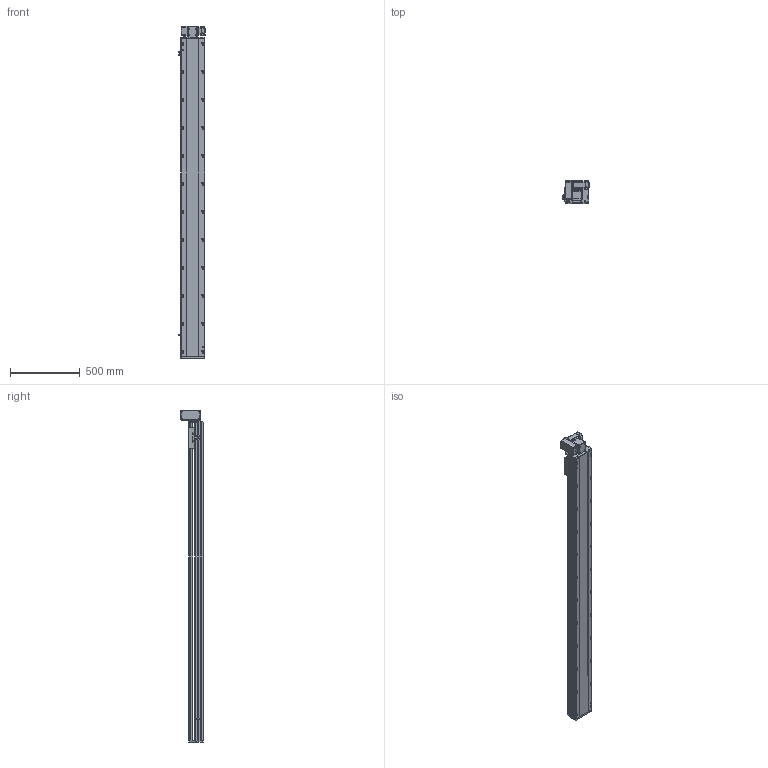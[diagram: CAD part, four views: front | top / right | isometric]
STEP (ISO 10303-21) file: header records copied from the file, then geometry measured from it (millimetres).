
FILE_DESCRIPTION (( 'STEP AP214' ), '1' );
FILE_NAME ('RTB17S-XX-2000-LW-M40-C4.STEP', '2025-12-11T07:13:16', ( '' ), ( '' ), 'SwSTEP 2.0', 'SolidWorks 2018', '' );
FILE_SCHEMA (( 'AUTOMOTIVE_DESIGN' ));
Length unit declared in the file: millimetre
Products named in the file (14): RTB14-L-018P^RTB17S-LW-々湍釱蚾饜-400W_RTB17S-XX-XX-LW-M40-C4; 400W侜督萇儂^RTB17S-XX-XX-LW-M40-C4; RTB17S-L-004佪裝蹟譫蟀諉釱^RTB17S-XX-XX-LW-M40-C4; RTB17S-L-007奻裔^RTB17S-XX-XX-LW-M40-C4; RTB17S-XX-2000-LW-M40-C4; RTB14-L-008-M20--萇儂啣^RTB17S-LW-々湍釱蚾饜-400W_RTB17S-XX-XX-LW-M40-C4; OMRON EE-SX672 传感器^RTB17S-XX-XX-LW-M40-C4; RTB17S-L-001耜醱啣^RTB17S-XX-XX-LW-M40-C4; RTH13-BL-012覜茼え俋离^RTB17S-XX-XX-LW-M40-C4; RTB17S-LW-々湍釱蚾饜-400W^RTB17S-XX-XX-LW-M40-C4; RTB17S-L-014-T20--々湍釱^RTB17S-LW-々湍釱蚾饜-400W_RTB17S-XX-XX-LW-M40-C4; RTB17-R-011菁釱^RTB17S-XX-XX-LW-M40-C4; RTB14-L-017P^RTB17S-LW-々湍釱蚾饜-400W_RTB17S-XX-XX-LW-M40-C4; RTB14-L-005P--轴承塑胶压盖^RTB17S-LW-皮带座装配-400W_RTB17S-XX-XX-LW-M40-C4
Assembly tree (16 placements, depth 3):
  RTB17S-XX-2000-LW-M40-C4
    RTB17-R-011菁釱^RTB17S-XX-XX-LW-M40-C4
    RTB17S-L-007奻裔^RTB17S-XX-XX-LW-M40-C4
    OMRON EE-SX672 传感器^RTB17S-XX-XX-LW-M40-C4  x3
    RTB17S-L-001耜醱啣^RTB17S-XX-XX-LW-M40-C4
    400W侜督萇儂^RTB17S-XX-XX-LW-M40-C4
    RTB17S-L-004佪裝蹟譫蟀諉釱^RTB17S-XX-XX-LW-M40-C4
    RTH13-BL-012覜茼え俋离^RTB17S-XX-XX-LW-M40-C4
    RTB17S-LW-々湍釱蚾饜-400W^RTB17S-XX-XX-LW-M40-C4
      RTB17S-L-014-T20--々湍釱^RTB17S-LW-々湍釱蚾饜-400W_RTB17S-XX-XX-LW-M40-C4
      RTB14-L-005P--轴承塑胶压盖^RTB17S-LW-皮带座装配-400W_RTB17S-XX-XX-LW-M40-C4
      RTB14-L-008-M20--萇儂啣^RTB17S-LW-々湍釱蚾饜-400W_RTB17S-XX-XX-LW-M40-C4
      RTB14-L-017P^RTB17S-LW-々湍釱蚾饜-400W_RTB17S-XX-XX-LW-M40-C4  x2
      RTB14-L-018P^RTB17S-LW-々湍釱蚾饜-400W_RTB17S-XX-XX-LW-M40-C4
Bounding box: 186 x 160.5 x 2372.5 mm (x, y, z)
Volume: 20531891.8 mm3; surface area: 2386456.9 mm2
Topology: 15 solids, 15 shells, 2285 faces, 6357 edges, 4149 vertices
Faces by surface type: plane 1078, cylinder 759, bspline 301, cone 139, torus 8
Entity records: 66473 total; most frequent: CARTESIAN_POINT 18762, ORIENTED_EDGE 9558, DIRECTION 8846, EDGE_CURVE 4779, VERTEX_POINT 3137, AXIS2_PLACEMENT_3D 3067, LINE 2712, VECTOR 2712
